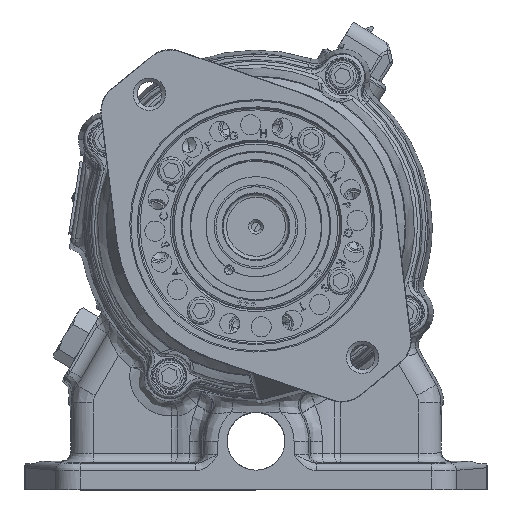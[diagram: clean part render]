
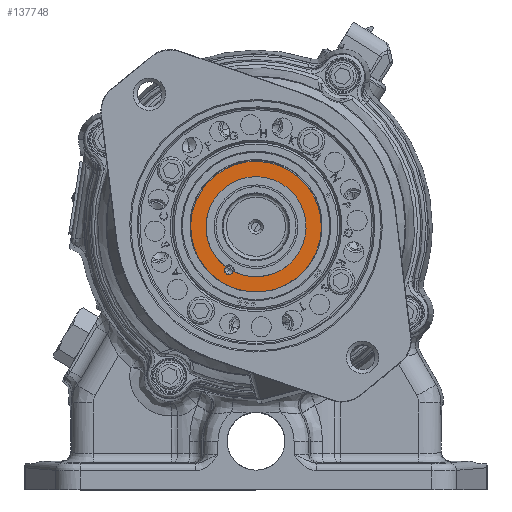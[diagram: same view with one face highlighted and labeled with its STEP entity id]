
A CAD part, top view. The second image highlights one B-rep face of the part: STEP entity #137748.
In plain terms, the highlighted planar face has unit normal (0, 0, 1) as drawn and (0, 0, -1) by its records, which use the part's own axes.
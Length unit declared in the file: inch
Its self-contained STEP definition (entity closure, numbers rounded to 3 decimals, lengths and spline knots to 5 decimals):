
#2433 = DIRECTION ( 'NONE',  ( 0., 0., 1. ) ) ;
#3606 = ORIENTED_EDGE ( 'NONE', *, *, #102484, .T. ) ;
#3683 = VERTEX_POINT ( 'NONE', #75863 ) ;
#3998 = DIRECTION ( 'NONE',  ( -1., 0., 0. ) ) ;
#7495 = CARTESIAN_POINT ( 'NONE',  ( 1.11, 0.35, -0.235 ) ) ;
#9637 = CARTESIAN_POINT ( 'NONE',  ( 0., 0.35, -0.235 ) ) ;
#14692 = VERTEX_POINT ( 'NONE', #123877 ) ;
#15263 = CARTESIAN_POINT ( 'NONE',  ( 0., -0.60312, -0.235 ) ) ;
#17212 = DIRECTION ( 'NONE',  ( 1., 0., 0. ) ) ;
#21589 = CARTESIAN_POINT ( 'NONE',  ( 0., 1.46, -0.235 ) ) ;
#24166 = DIRECTION ( 'NONE',  ( 0., 0., 1. ) ) ;
#31128 = CIRCLE ( 'NONE', #150659, 0.85 ) ;
#35221 = AXIS2_PLACEMENT_3D ( 'NONE', #9637, #81386, #57483 ) ;
#38182 = EDGE_CURVE ( 'NONE', #90242, #125138, #109567, .T. ) ;
#40579 = AXIS2_PLACEMENT_3D ( 'NONE', #49137, #122392, #147850 ) ;
#41738 = CARTESIAN_POINT ( 'NONE',  ( 0., -0.525, -0.235 ) ) ;
#48893 = DIRECTION ( 'NONE',  ( 1., 0., 0. ) ) ;
#49137 = CARTESIAN_POINT ( 'NONE',  ( 0., 0.35, -0.235 ) ) ;
#49994 = CARTESIAN_POINT ( 'NONE',  ( -1.11, 0.35, -0.235 ) ) ;
#50826 = VERTEX_POINT ( 'NONE', #75340 ) ;
#51421 = EDGE_CURVE ( 'NONE', #112000, #14692, #96501, .T. ) ;
#53254 = DIRECTION ( 'NONE',  ( 1., 0., 0. ) ) ;
#55427 = CARTESIAN_POINT ( 'NONE',  ( 0., 0.35, -0.235 ) ) ;
#57483 = DIRECTION ( 'NONE',  ( 1., 0., 0. ) ) ;
#63129 = AXIS2_PLACEMENT_3D ( 'NONE', #41738, #93468, #77585 ) ;
#65980 = CARTESIAN_POINT ( 'NONE',  ( 0., 0.35, -0.235 ) ) ;
#66435 = EDGE_LOOP ( 'NONE', ( #3606, #90969, #133405, #157135, #119079 ) ) ;
#68540 = AXIS2_PLACEMENT_3D ( 'NONE', #110032, #2433, #3998 ) ;
#70222 = DIRECTION ( 'NONE',  ( -1., 0., 0. ) ) ;
#71240 = CARTESIAN_POINT ( 'NONE',  ( 0., 0.35, -0.235 ) ) ;
#75340 = CARTESIAN_POINT ( 'NONE',  ( -0.07288, -0.49687, -0.235 ) ) ;
#75863 = CARTESIAN_POINT ( 'NONE',  ( -0.85, 0.35, -0.235 ) ) ;
#77585 = DIRECTION ( 'NONE',  ( -1., 0., 0. ) ) ;
#78479 = CIRCLE ( 'NONE', #63129, 0.07812 ) ;
#80987 = EDGE_CURVE ( 'NONE', #3683, #50826, #142060, .T. ) ;
#81386 = DIRECTION ( 'NONE',  ( 0., 0., 1. ) ) ;
#81663 = ORIENTED_EDGE ( 'NONE', *, *, #97750, .F. ) ;
#85621 = CARTESIAN_POINT ( 'NONE',  ( 0.85, 0.35, -0.235 ) ) ;
#88888 = CIRCLE ( 'NONE', #40579, 0.85 ) ;
#89307 = ORIENTED_EDGE ( 'NONE', *, *, #38182, .F. ) ;
#89700 = VERTEX_POINT ( 'NONE', #85621 ) ;
#89874 = DIRECTION ( 'NONE',  ( 0., 0., 1. ) ) ;
#90242 = VERTEX_POINT ( 'NONE', #49994 ) ;
#90969 = ORIENTED_EDGE ( 'NONE', *, *, #51421, .T. ) ;
#93468 = DIRECTION ( 'NONE',  ( 0., 0., 1. ) ) ;
#96501 = CIRCLE ( 'NONE', #68540, 0.07812 ) ;
#97750 = EDGE_CURVE ( 'NONE', #125138, #90242, #124279, .T. ) ;
#102484 = EDGE_CURVE ( 'NONE', #50826, #112000, #78479, .T. ) ;
#108414 = FACE_OUTER_BOUND ( 'NONE', #154082, .T. ) ;
#109567 = CIRCLE ( 'NONE', #129925, 1.11 ) ;
#110032 = CARTESIAN_POINT ( 'NONE',  ( 0., -0.525, -0.235 ) ) ;
#111632 = EDGE_CURVE ( 'NONE', #14692, #89700, #31128, .T. ) ;
#112000 = VERTEX_POINT ( 'NONE', #15263 ) ;
#119079 = ORIENTED_EDGE ( 'NONE', *, *, #80987, .T. ) ;
#122392 = DIRECTION ( 'NONE',  ( 0., 0., 1. ) ) ;
#123877 = CARTESIAN_POINT ( 'NONE',  ( 0.07288, -0.49687, -0.235 ) ) ;
#124279 = CIRCLE ( 'NONE', #35221, 1.11 ) ;
#125138 = VERTEX_POINT ( 'NONE', #7495 ) ;
#129721 = AXIS2_PLACEMENT_3D ( 'NONE', #21589, #157012, #70222 ) ;
#129925 = AXIS2_PLACEMENT_3D ( 'NONE', #65980, #89874, #53254 ) ;
#130748 = PLANE ( 'NONE',  #129721 ) ;
#133405 = ORIENTED_EDGE ( 'NONE', *, *, #111632, .T. ) ;
#137110 = EDGE_CURVE ( 'NONE', #89700, #3683, #88888, .T. ) ;
#137748 = ADVANCED_FACE ( 'NONE', ( #108414, #145804 ), #130748, .T. ) ;
#141419 = DIRECTION ( 'NONE',  ( 0., 0., 1. ) ) ;
#142060 = CIRCLE ( 'NONE', #144662, 0.85 ) ;
#144662 = AXIS2_PLACEMENT_3D ( 'NONE', #71240, #24166, #48893 ) ;
#145804 = FACE_BOUND ( 'NONE', #66435, .T. ) ;
#147850 = DIRECTION ( 'NONE',  ( 1., 0., 0. ) ) ;
#150659 = AXIS2_PLACEMENT_3D ( 'NONE', #55427, #141419, #17212 ) ;
#154082 = EDGE_LOOP ( 'NONE', ( #81663, #89307 ) ) ;
#157012 = DIRECTION ( 'NONE',  ( 0., 0., -1. ) ) ;
#157135 = ORIENTED_EDGE ( 'NONE', *, *, #137110, .T. ) ;
